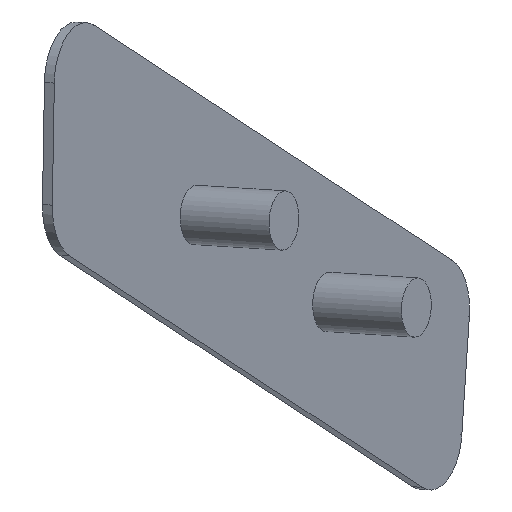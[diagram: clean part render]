
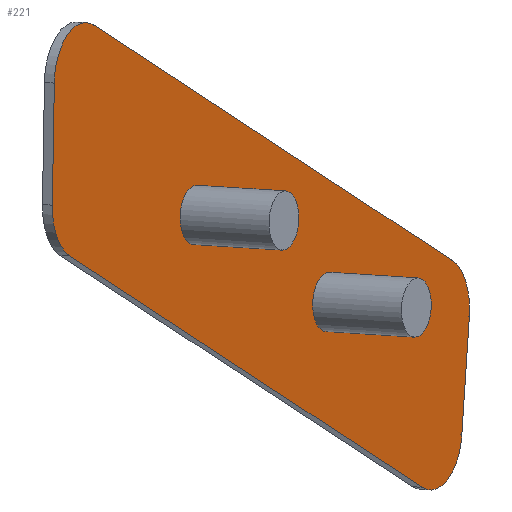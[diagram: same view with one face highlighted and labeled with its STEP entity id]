
A CAD part, front view. The second image highlights one B-rep face of the part: STEP entity #221.
In plain terms, the highlighted planar face has unit normal (0.865, -0.499, -0.055).
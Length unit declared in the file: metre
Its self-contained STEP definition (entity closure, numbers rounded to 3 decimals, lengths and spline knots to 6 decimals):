
#14=CIRCLE('',#247,0.005);
#16=CIRCLE('',#251,0.005);
#18=CIRCLE('',#255,0.005);
#20=CIRCLE('',#259,0.005);
#22=CIRCLE('',#263,0.0026);
#23=CIRCLE('',#264,0.0026);
#72=ORIENTED_EDGE('',*,*,#112,.F.);
#73=ORIENTED_EDGE('',*,*,#113,.F.);
#74=ORIENTED_EDGE('',*,*,#88,.T.);
#75=ORIENTED_EDGE('',*,*,#92,.T.);
#76=ORIENTED_EDGE('',*,*,#95,.T.);
#77=ORIENTED_EDGE('',*,*,#98,.T.);
#78=ORIENTED_EDGE('',*,*,#101,.T.);
#79=ORIENTED_EDGE('',*,*,#104,.T.);
#80=ORIENTED_EDGE('',*,*,#107,.T.);
#81=ORIENTED_EDGE('',*,*,#110,.T.);
#88=EDGE_CURVE('',#116,#117,#136,.T.);
#92=EDGE_CURVE('',#117,#120,#14,.T.);
#95=EDGE_CURVE('',#120,#122,#141,.T.);
#98=EDGE_CURVE('',#122,#124,#16,.T.);
#101=EDGE_CURVE('',#124,#126,#145,.T.);
#104=EDGE_CURVE('',#126,#128,#18,.T.);
#107=EDGE_CURVE('',#128,#130,#149,.T.);
#110=EDGE_CURVE('',#130,#116,#20,.T.);
#112=EDGE_CURVE('',#132,#132,#22,.T.);
#113=EDGE_CURVE('',#133,#133,#23,.T.);
#116=VERTEX_POINT('',#344);
#117=VERTEX_POINT('',#345);
#120=VERTEX_POINT('',#353);
#122=VERTEX_POINT('',#359);
#124=VERTEX_POINT('',#365);
#126=VERTEX_POINT('',#371);
#128=VERTEX_POINT('',#377);
#130=VERTEX_POINT('',#383);
#132=VERTEX_POINT('',#393);
#133=VERTEX_POINT('',#395);
#136=LINE('',#343,#152);
#141=LINE('',#358,#157);
#145=LINE('',#370,#161);
#149=LINE('',#382,#165);
#152=VECTOR('',#275,1.);
#157=VECTOR('',#288,1.);
#161=VECTOR('',#300,1.);
#165=VECTOR('',#312,1.);
#177=EDGE_LOOP('',(#72));
#178=EDGE_LOOP('',(#73));
#179=EDGE_LOOP('',(#74,#75,#76,#77,#78,#79,#80,#81));
#195=FACE_BOUND('',#177,.T.);
#196=FACE_BOUND('',#178,.T.);
#197=FACE_BOUND('',#179,.T.);
#209=PLANE('',#262);
#221=ADVANCED_FACE('',(#195,#196,#197),#209,.F.);
#247=AXIS2_PLACEMENT_3D('',#352,#281,#282);
#251=AXIS2_PLACEMENT_3D('',#364,#293,#294);
#255=AXIS2_PLACEMENT_3D('',#376,#305,#306);
#259=AXIS2_PLACEMENT_3D('',#388,#317,#318);
#262=AXIS2_PLACEMENT_3D('',#391,#323,#324);
#263=AXIS2_PLACEMENT_3D('',#392,#325,#326);
#264=AXIS2_PLACEMENT_3D('',#394,#327,#328);
#275=DIRECTION('',(-0.462,-0.833,0.303));
#281=DIRECTION('',(0.865,-0.499,-0.055));
#282=DIRECTION('',(0.5,0.866,0.));
#288=DIRECTION('',(-0.016,0.081,-0.997));
#293=DIRECTION('',(0.865,-0.499,-0.055));
#294=DIRECTION('',(0.5,0.866,0.));
#300=DIRECTION('',(0.462,0.833,-0.303));
#305=DIRECTION('',(0.865,-0.499,-0.055));
#306=DIRECTION('',(0.5,0.866,0.));
#312=DIRECTION('',(0.063,0.,0.998));
#317=DIRECTION('',(0.865,-0.499,-0.055));
#318=DIRECTION('',(0.5,0.866,0.));
#323=DIRECTION('',(-0.865,0.499,0.055));
#324=DIRECTION('',(0.498,0.866,-0.032));
#325=DIRECTION('',(0.865,-0.499,-0.055));
#326=DIRECTION('',(0.5,0.866,0.));
#327=DIRECTION('',(0.865,-0.499,-0.055));
#328=DIRECTION('',(0.5,0.866,0.));
#343=CARTESIAN_POINT('',(-0.202434,0.361052,0.473429));
#344=CARTESIAN_POINT('',(-0.186749,0.389352,0.463129));
#345=CARTESIAN_POINT('',(-0.218118,0.332753,0.483729));
#352=CARTESIAN_POINT('',(-0.219104,0.331568,0.478973));
#353=CARTESIAN_POINT('',(-0.221614,0.327255,0.478663));
#358=CARTESIAN_POINT('',(-0.221702,0.327691,0.473316));
#359=CARTESIAN_POINT('',(-0.22179,0.328127,0.46797));
#364=CARTESIAN_POINT('',(-0.21928,0.33244,0.46828));
#365=CARTESIAN_POINT('',(-0.220266,0.331255,0.463524));
#370=CARTESIAN_POINT('',(-0.204823,0.359119,0.453382));
#371=CARTESIAN_POINT('',(-0.18938,0.386982,0.443241));
#376=CARTESIAN_POINT('',(-0.188394,0.388167,0.447997));
#377=CARTESIAN_POINT('',(-0.185903,0.392499,0.447839));
#382=CARTESIAN_POINT('',(-0.185574,0.392499,0.453027));
#383=CARTESIAN_POINT('',(-0.185244,0.392499,0.458214));
#388=CARTESIAN_POINT('',(-0.187735,0.388167,0.458373));
#391=CARTESIAN_POINT('',(-0.224578,0.322252,0.477475));
#392=CARTESIAN_POINT('',(-0.20928,0.349889,0.467117));
#393=CARTESIAN_POINT('',(-0.20798,0.352141,0.467117));
#394=CARTESIAN_POINT('',(-0.197669,0.370838,0.459492));
#395=CARTESIAN_POINT('',(-0.196369,0.373089,0.459492));
